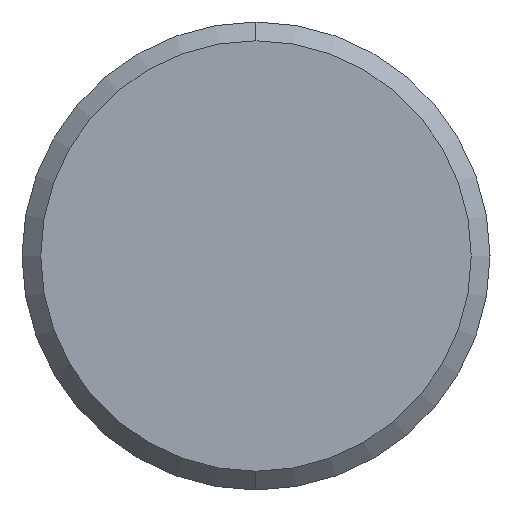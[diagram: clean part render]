
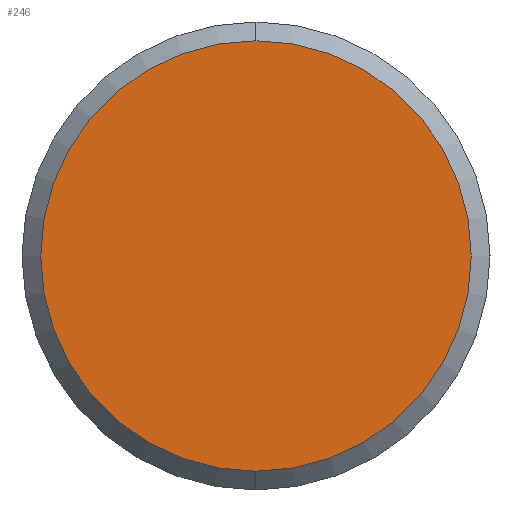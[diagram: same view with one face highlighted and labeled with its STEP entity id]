
A CAD part, left-side view. The second image highlights one B-rep face of the part: STEP entity #246.
In plain terms, the highlighted planar face has unit normal (-1, 0, 0).
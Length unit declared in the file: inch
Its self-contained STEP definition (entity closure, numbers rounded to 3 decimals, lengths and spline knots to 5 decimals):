
#8 = CARTESIAN_POINT ( 'NONE',  ( 0., 0., 0. ) ) ;
#125 = DIRECTION ( 'NONE',  ( -1., 0., 0. ) ) ;
#172 = EDGE_LOOP ( 'NONE', ( #541, #1102 ) ) ;
#246 = ADVANCED_FACE ( 'NONE', ( #1635 ), #1733, .T. ) ;
#259 = CARTESIAN_POINT ( 'NONE',  ( 0., 0., -0.17235 ) ) ;
#500 = CIRCLE ( 'NONE', #2505, 0.17235 ) ;
#541 = ORIENTED_EDGE ( 'NONE', *, *, #1826, .T. ) ;
#688 = CARTESIAN_POINT ( 'NONE',  ( 0., 0., 0. ) ) ;
#1102 = ORIENTED_EDGE ( 'NONE', *, *, #1650, .T. ) ;
#1625 = VERTEX_POINT ( 'NONE', #2328 ) ;
#1635 = FACE_OUTER_BOUND ( 'NONE', #172, .T. ) ;
#1650 = EDGE_CURVE ( 'NONE', #1625, #2666, #2703, .T. ) ;
#1733 = PLANE ( 'NONE',  #3699 ) ;
#1826 = EDGE_CURVE ( 'NONE', #2666, #1625, #500, .T. ) ;
#1878 = DIRECTION ( 'NONE',  ( 0., 0., 1. ) ) ;
#2328 = CARTESIAN_POINT ( 'NONE',  ( 0., 0., 0.17235 ) ) ;
#2505 = AXIS2_PLACEMENT_3D ( 'NONE', #688, #125, #1878 ) ;
#2666 = VERTEX_POINT ( 'NONE', #259 ) ;
#2703 = CIRCLE ( 'NONE', #2823, 0.17235 ) ;
#2823 = AXIS2_PLACEMENT_3D ( 'NONE', #3513, #3275, #2926 ) ;
#2894 = DIRECTION ( 'NONE',  ( 0., 0., 1. ) ) ;
#2926 = DIRECTION ( 'NONE',  ( 0., 0., 1. ) ) ;
#3105 = DIRECTION ( 'NONE',  ( -1., 0., 0. ) ) ;
#3275 = DIRECTION ( 'NONE',  ( -1., 0., 0. ) ) ;
#3513 = CARTESIAN_POINT ( 'NONE',  ( 0., 0., 0. ) ) ;
#3699 = AXIS2_PLACEMENT_3D ( 'NONE', #8, #3105, #2894 ) ;
